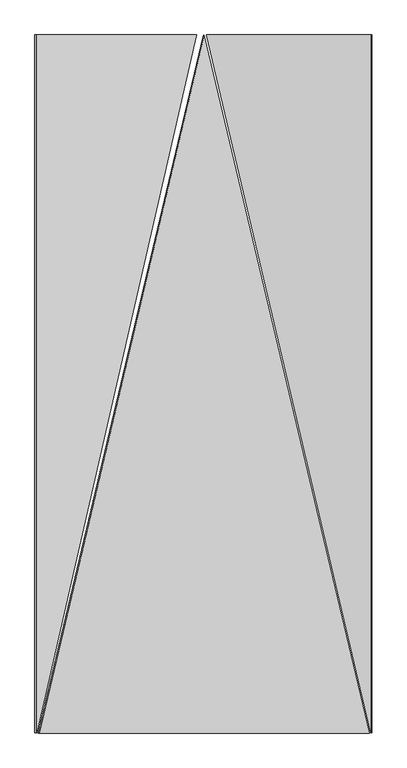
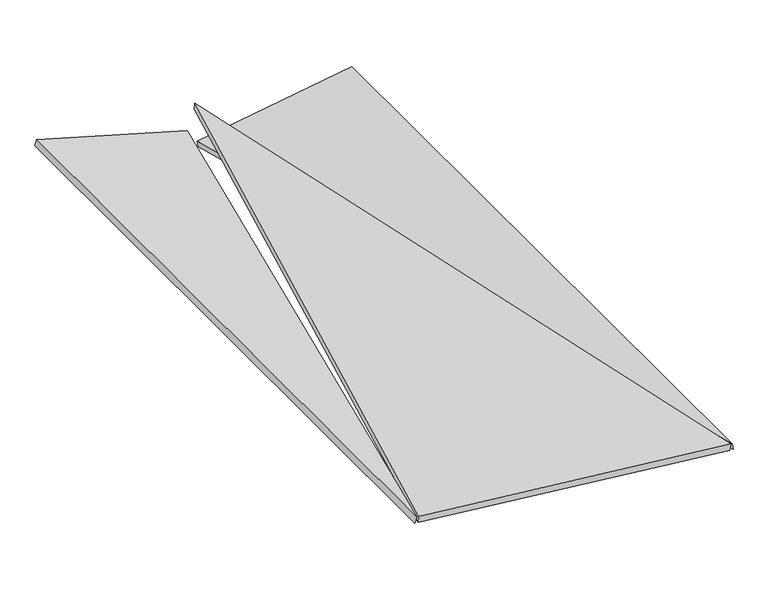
"""IFC4 building model written with IfcOpenShell, lengths in millimetres: proxy geometry, panel sufitowy 6 : panel sufitowy 6."""

import ifcopenshell
import ifcopenshell.guid

model = None  # the IFC model being written
_history = None  # IfcOwnerHistory: only IFC2X3 demands one
_inside = {}  # id of a spatial element -> (the spatial element, [elements in it])
_under = {}  # id of a project, library or spatial element -> (it, [spatial elements below it])
_declared = {}  # id of a project -> (the project, [libraries it declares])
_typed = {}  # id of a type object -> (the type object, [elements of that type])
_made_of = {}  # id of a material, layer set ... -> (it, [elements and type objects made of it])


def new_model(schema):
    """Start an empty IFC model of exactly this schema.

    Asked for "IFC4X3", IfcOpenShell would pick the latest addendum, in which some entities
    have other attributes; the version numbers below select the first issue.
    IFC2X3 requires an IfcOwnerHistory on every rooted entity: one is made here for all.
    """
    global model, _history
    if schema == "IFC4X3":
        model = ifcopenshell.file(schema_version=(4, 3, 0, 0))
    else:
        model = ifcopenshell.file(schema=schema)
    _inside.clear()
    _under.clear()
    _declared.clear()
    _typed.clear()
    _made_of.clear()
    _history = None
    if model.schema == "IFC2X3":
        org = make("IfcOrganization", Name="unknown")
        user = make(
            "IfcPersonAndOrganization",
            ThePerson=make("IfcPerson", FamilyName="unknown"),
            TheOrganization=org,
        )
        app = make(
            "IfcApplication",
            ApplicationDeveloper=org,
            Version="unknown",
            ApplicationFullName="unknown",
            ApplicationIdentifier="unknown",
        )
        _history = make(
            "IfcOwnerHistory",
            OwningUser=user,
            OwningApplication=app,
            ChangeAction="ADDED",
            CreationDate=0,
        )
    return model


def make(cls, **values):
    """One entity of the class cls with the attributes given. An attribute that is None is left unset."""
    return model.create_entity(
        cls, **{name: value for name, value in values.items() if value is not None}
    )


def rooted(cls, **values):
    """An entity with a GlobalId (a new one), such as an element, a storey or a relation."""
    return make(cls, GlobalId=ifcopenshell.guid.new(), OwnerHistory=_history, **values)


def si_unit(unit_type, name, prefix=None):
    """IfcSIUnit, for example si_unit("LENGTHUNIT", "METRE", prefix="MILLI")."""
    return make("IfcSIUnit", UnitType=unit_type, Prefix=prefix, Name=name)


def assignment(units):
    """IfcUnitAssignment: the units of a project."""
    return None if units is None else make("IfcUnitAssignment", Units=units)


def point(xyz):
    """IfcCartesianPoint."""
    return None if xyz is None else make("IfcCartesianPoint", Coordinates=xyz)


def direction(xyz):
    """IfcDirection."""
    return None if xyz is None else make("IfcDirection", DirectionRatios=xyz)


def frame(location, z_axis=None, x_axis=None):
    """IfcAxis2Placement3D, a coordinate frame: its origin and axes. An axis left out is left unset."""
    return make(
        "IfcAxis2Placement3D",
        Location=point(location),
        Axis=direction(z_axis),
        RefDirection=direction(x_axis),
    )


def origin():
    """The frame at (0, 0, 0) with its axes left unset."""
    return frame((0.0, 0.0, 0.0))


def place(relative_to, where):
    """IfcLocalPlacement: puts the frame where relative to a parent placement (None: the world)."""
    return make(
        "IfcLocalPlacement", PlacementRelTo=relative_to, RelativePlacement=where
    )


def context(
    kind, dimensions, precision=None, world=None, true_north=None, identifier=None
):
    """IfcGeometricRepresentationContext, for example the 3D "Model" context."""
    return make(
        "IfcGeometricRepresentationContext",
        ContextIdentifier=identifier,
        ContextType=kind,
        CoordinateSpaceDimension=dimensions,
        Precision=precision,
        WorldCoordinateSystem=world,
        TrueNorth=true_north,
    )


def project(units=None, contexts=None):
    """IfcProject with its units and contexts."""
    return rooted(
        "IfcProject",
        Name="project",
        RepresentationContexts=contexts,
        UnitsInContext=assignment(units),
    )


def spatial(cls, under=None, at=None, **own):
    """A site, building, storey or space (cls), placed at a placement, below another one or the project."""
    s = rooted(cls, ObjectPlacement=at, **own)
    if under is not None:
        _under.setdefault(under.id(), (under, []))[1].append(s)
    return s


def polyline(points):
    """IfcPolyline through the points."""
    return make("IfcPolyline", Points=[point(p) for p in points])


def outline(outer, holes=None, kind="AREA"):
    """IfcArbitraryClosedProfileDef: a profile drawn as a closed curve; with holes, ...WithVoids."""
    if holes is None:
        return make("IfcArbitraryClosedProfileDef", ProfileType=kind, OuterCurve=outer)
    return make(
        "IfcArbitraryProfileDefWithVoids",
        ProfileType=kind,
        OuterCurve=outer,
        InnerCurves=holes,
    )


def extrude(swept, where, along, depth):
    """IfcExtrudedAreaSolid: the profile swept, set in the frame where, extruded along a direction by depth."""
    return make(
        "IfcExtrudedAreaSolid",
        SweptArea=swept,
        Position=where,
        ExtrudedDirection=direction(along),
        Depth=depth,
    )


def shape(context_of_items, identifier, shape_type, items):
    """IfcShapeRepresentation: the items that make up one representation, for example the "Body"."""
    return make(
        "IfcShapeRepresentation",
        ContextOfItems=context_of_items,
        RepresentationIdentifier=identifier,
        RepresentationType=shape_type,
        Items=items,
    )


def source(mapping_origin, context_of_items, identifier, shape_type, items):
    """IfcRepresentationMap: a shape defined once, which mapped items show again and again."""
    return make(
        "IfcRepresentationMap",
        MappingOrigin=mapping_origin,
        MappedRepresentation=shape(context_of_items, identifier, shape_type, items),
    )


def transform(
    local_origin,
    x_axis=None,
    y_axis=None,
    z_axis=None,
    scale=None,
    scale2=None,
    scale3=None,
    uniform=True,
):
    """IfcCartesianTransformationOperator3D, or its non-uniform kind. x_axis, y_axis, z_axis: its Axis1, 2, 3."""
    if uniform:
        return make(
            "IfcCartesianTransformationOperator3D",
            Axis1=direction(x_axis),
            Axis2=direction(y_axis),
            LocalOrigin=point(local_origin),
            Scale=scale,
            Axis3=direction(z_axis),
        )
    return make(
        "IfcCartesianTransformationOperator3DnonUniform",
        Axis1=direction(x_axis),
        Axis2=direction(y_axis),
        LocalOrigin=point(local_origin),
        Scale=scale,
        Axis3=direction(z_axis),
        Scale2=scale2,
        Scale3=scale3,
    )


def mapped(mapping_source, mapping_target):
    """IfcMappedItem: shows the shape of a source again, moved by a transform."""
    return make(
        "IfcMappedItem", MappingSource=mapping_source, MappingTarget=mapping_target
    )


def made_of(thing, what):
    """Note that an element or type object is made of a material, layer set ...; save() writes the relation."""
    if what is not None:
        _made_of.setdefault(what.id(), (what, []))[1].append(thing)
    return thing


def element(
    cls,
    number,
    at=None,
    inside=None,
    cuts=None,
    type_object=None,
    material=None,
    context=None,
    identifier="Body",
    shape_type=None,
    held_by="IfcProductDefinitionShape",
    body=None,
    shapes=None,
    **own,
):
    """One element of the class cls, such as IfcWall. Its Tag is "e" and its number.

    at: its placement. inside: the storey or other place that contains it. cuts: it is an
    opening in that element (IfcRelVoidsElement). A single representation is given by context,
    identifier, shape_type and body (its items); several are given by shapes. held_by: the class
    of the entity that holds the representations. save() writes the other relations.
    """
    e = rooted(cls, Tag="e%d" % number, ObjectPlacement=at, **own)
    if body is not None:
        shapes = [shape(context, identifier, shape_type, body)]
    if shapes is not None:
        e.Representation = make(held_by, Representations=shapes)
    if inside is not None:
        _inside.setdefault(inside.id(), (inside, []))[1].append(e)
    if cuts is not None:
        rooted(
            "IfcRelVoidsElement", RelatingBuildingElement=cuts, RelatedOpeningElement=e
        )
    if type_object is not None:
        _typed.setdefault(type_object.id(), (type_object, []))[1].append(e)
    return made_of(e, material)


def aggregate(whole, parts):
    """IfcRelAggregates: a whole, such as a stair, and the parts it consists of."""
    return rooted("IfcRelAggregates", RelatingObject=whole, RelatedObjects=parts)


def save(model, path):
    """Write the relations noted so far, then the file.

    IfcRelAggregates (storeys below a building ...), IfcRelContainedInSpatialStructure (elements
    in a storey), IfcRelDefinesByType, IfcRelAssociatesMaterial and IfcRelDeclares: one each for
    every whole, place, type object, material and project.
    """
    for whole, parts in _under.values():
        aggregate(whole, parts)
    for where, things in _inside.values():
        rooted(
            "IfcRelContainedInSpatialStructure",
            RelatedElements=things,
            RelatingStructure=where,
        )
    for kind, things in _typed.values():
        rooted("IfcRelDefinesByType", RelatedObjects=things, RelatingType=kind)
    for what, things in _made_of.values():
        rooted("IfcRelAssociatesMaterial", RelatedObjects=things, RelatingMaterial=what)
    for by, libraries in _declared.values():
        rooted("IfcRelDeclares", RelatingContext=by, RelatedDefinitions=libraries)
    model.write(path)


def generic_models_89bddd4e(model_context):
    return source(origin(), model_context, "Body", "SweptSolid", [
        extrude(outline(polyline([(-900.9098917, 1e-07), (1006.1909889, 962.7191946), (1235.4098448, 0.0), (-900.9098917, 1e-07)])), frame((546.4979671, 1457.4151922, 1127.1133804), z_axis=(0.10452846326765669, 0.0, 0.9945218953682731), x_axis=(-0.23035168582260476, -0.9728062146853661, 0.02421093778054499)), (0.0, 0.0, 1.0), 20.0),
        extrude(outline(polyline([(-127.5, 0.0), (-127.5, -2079.0), (-622.5, 0.0), (-127.5, 0.0)])), frame((1381.9098918, 2335.0, 1072.4892472), z_axis=(-0.1564344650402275, 0.0, 0.9876883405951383), x_axis=(0.9876883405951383, 0.0, 0.1564344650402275)), (0.0, 0.0, 1.0), 20.0),
        extrude(outline(polyline([(-127.5000001, 0.0), (-622.5, 0.0), (-127.5000001, 2079.0), (-127.5000001, 0.0)])), frame((128.9516478, 2335.0, 1193.2613637), z_axis=(0.2756373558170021, 0.0, 0.9612616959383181), x_axis=(-0.9612616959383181, 0.0, 0.2756373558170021)), (0.0, 0.0, 1.0), 20.0),
    ])


if __name__ == "__main__":
    model = new_model("IFC4")
    model_context = context("Model", 3, world=origin())
    ifc_project = project(units=[si_unit("LENGTHUNIT", "METRE", prefix="MILLI")], contexts=[model_context])
    site = spatial("IfcSite", under=ifc_project)
    building = spatial("IfcBuilding", under=site)
    placement = place(None, origin())
    generic_models_shape = generic_models_89bddd4e(model_context)
    element("IfcBuildingElementProxy", 1, Name="panel sufitowy 6 : panel sufitowy 6", ObjectType="panel sufitowy 6 : panel sufitowy 6", at=placement, inside=building, context=model_context, shape_type="MappedRepresentation", body=[
        mapped(generic_models_shape, transform((0.0, 0.0, 0.0), x_axis=(1.0, 0.0, 0.0), y_axis=(0.0, 1.0, 0.0), z_axis=(0.0, 0.0, 1.0))),
    ])
    save(model, "model.ifc")
